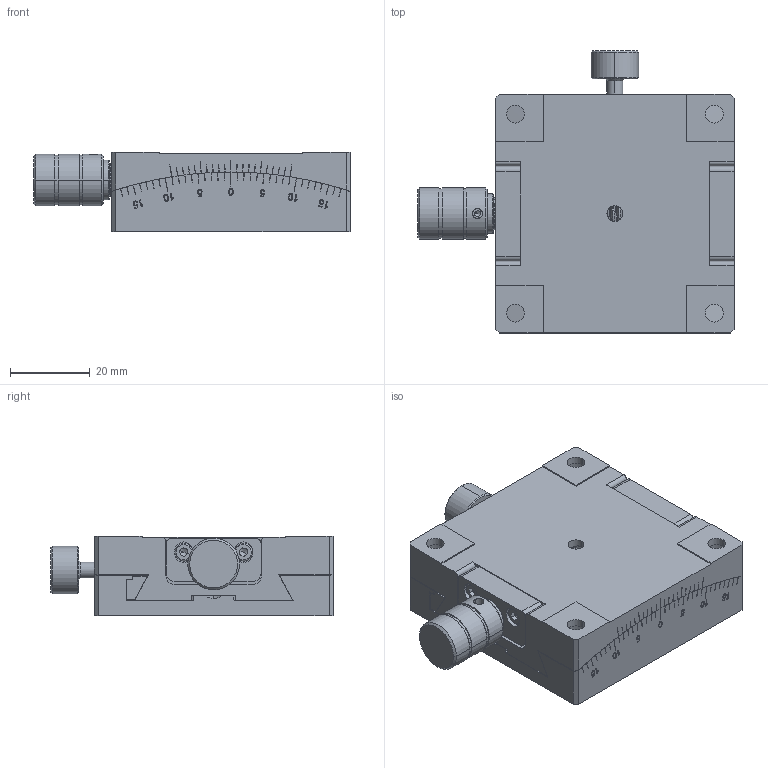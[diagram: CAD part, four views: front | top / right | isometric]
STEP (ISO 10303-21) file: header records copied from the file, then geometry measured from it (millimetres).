
FILE_DESCRIPTION (( 'STEP AP203' ), '1' );
FILE_NAME ('BFSG60-80.STEP', '2024-07-30T02:50:14', ( '微软用户' ), ( '微软中国' ), 'SwSTEP 2.0', 'SolidWorks 2024', '' );
FILE_SCHEMA (( 'CONFIG_CONTROL_DESIGN' ));
Length unit declared in the file: millimetre
Products named in the file (1): BFSG60-80
Bounding box: 79.55 x 70.89 x 20 mm (x, y, z)
Volume: 69141.9 mm3; surface area: 32156.7 mm2
Topology: 16 solids, 16 shells, 825 faces, 2200 edges, 1424 vertices
Faces by surface type: plane 468, cylinder 195, cone 81, bspline 41, torus 40
Entity records: 35123 total; most frequent: CARTESIAN_POINT 14548, ORIENTED_EDGE 4320, DIRECTION 4164, EDGE_CURVE 2160, VERTEX_POINT 1424, AXIS2_PLACEMENT_3D 1398, LINE 1368, VECTOR 1368
